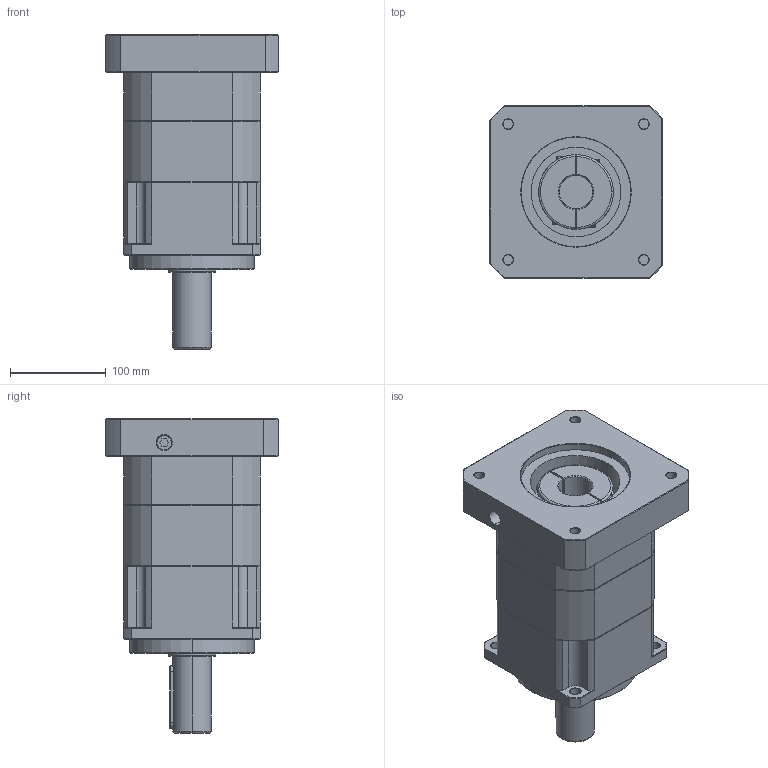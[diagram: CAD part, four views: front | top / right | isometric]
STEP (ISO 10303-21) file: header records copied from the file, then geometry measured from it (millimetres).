
FILE_DESCRIPTION (( 'STEP AP214' ), '1' );
FILE_NAME ('ZPB142-L2-P1-S2-35-114.3-200-M12.step', '2024-07-05T00:18:51', ( 'Windows 蚚誧' ), ( 'Organization' ), 'SwSTEP 2.0', 'SolidWorks 2016', '' );
FILE_SCHEMA (( 'AUTOMOTIVE_DESIGN' ));
Length unit declared in the file: millimetre
Products named in the file (1): ZPB142-L2-P1-S2-35-114.3-200-M12
Bounding box: 180 x 180 x 327.5 mm (x, y, z)
Surface area: 266603.6 mm2 (no closed solid volume)
Topology: 0 solids, 37 shells, 1793 faces, 4772 edges, 3054 vertices
Faces by surface type: plane 924, bspline 383, cone 271, cylinder 215
Full cylindrical faces by diameter (mm): 14 x1
Entity records: 100736 total; most frequent: CARTESIAN_POINT 50646, ORIENTED_EDGE 9519, DIRECTION 7320, EDGE_CURVE 4771, LINE 3158, VECTOR 3158, VERTEX_POINT 3054, AXIS2_PLACEMENT_3D 2081
